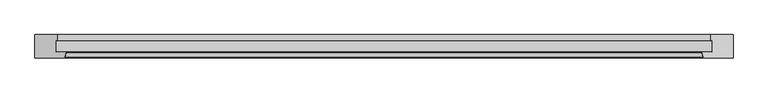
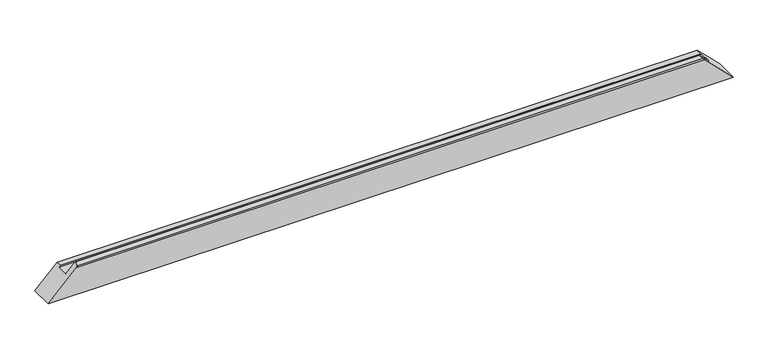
"""IFC4 building model written with IfcOpenShell, lengths in millimetres: proxy geometry, Weiku - Montante - Caixilho 02.2.01.005 : Weiku - Montante - Caixilho 02.2.01.005."""

import ifcopenshell
import ifcopenshell.guid

model = None  # the IFC model being written
_history = None  # IfcOwnerHistory: only IFC2X3 demands one
_inside = {}  # id of a spatial element -> (the spatial element, [elements in it])
_under = {}  # id of a project, library or spatial element -> (it, [spatial elements below it])
_declared = {}  # id of a project -> (the project, [libraries it declares])
_typed = {}  # id of a type object -> (the type object, [elements of that type])
_made_of = {}  # id of a material, layer set ... -> (it, [elements and type objects made of it])


def new_model(schema):
    """Start an empty IFC model of exactly this schema.

    Asked for "IFC4X3", IfcOpenShell would pick the latest addendum, in which some entities
    have other attributes; the version numbers below select the first issue.
    IFC2X3 requires an IfcOwnerHistory on every rooted entity: one is made here for all.
    """
    global model, _history
    if schema == "IFC4X3":
        model = ifcopenshell.file(schema_version=(4, 3, 0, 0))
    else:
        model = ifcopenshell.file(schema=schema)
    _inside.clear()
    _under.clear()
    _declared.clear()
    _typed.clear()
    _made_of.clear()
    _history = None
    if model.schema == "IFC2X3":
        org = make("IfcOrganization", Name="unknown")
        user = make(
            "IfcPersonAndOrganization",
            ThePerson=make("IfcPerson", FamilyName="unknown"),
            TheOrganization=org,
        )
        app = make(
            "IfcApplication",
            ApplicationDeveloper=org,
            Version="unknown",
            ApplicationFullName="unknown",
            ApplicationIdentifier="unknown",
        )
        _history = make(
            "IfcOwnerHistory",
            OwningUser=user,
            OwningApplication=app,
            ChangeAction="ADDED",
            CreationDate=0,
        )
    return model


def make(cls, **values):
    """One entity of the class cls with the attributes given. An attribute that is None is left unset."""
    return model.create_entity(
        cls, **{name: value for name, value in values.items() if value is not None}
    )


def rooted(cls, **values):
    """An entity with a GlobalId (a new one), such as an element, a storey or a relation."""
    return make(cls, GlobalId=ifcopenshell.guid.new(), OwnerHistory=_history, **values)


def si_unit(unit_type, name, prefix=None):
    """IfcSIUnit, for example si_unit("LENGTHUNIT", "METRE", prefix="MILLI")."""
    return make("IfcSIUnit", UnitType=unit_type, Prefix=prefix, Name=name)


def assignment(units):
    """IfcUnitAssignment: the units of a project."""
    return None if units is None else make("IfcUnitAssignment", Units=units)


def point(xyz):
    """IfcCartesianPoint."""
    return None if xyz is None else make("IfcCartesianPoint", Coordinates=xyz)


def direction(xyz):
    """IfcDirection."""
    return None if xyz is None else make("IfcDirection", DirectionRatios=xyz)


def frame(location, z_axis=None, x_axis=None):
    """IfcAxis2Placement3D, a coordinate frame: its origin and axes. An axis left out is left unset."""
    return make(
        "IfcAxis2Placement3D",
        Location=point(location),
        Axis=direction(z_axis),
        RefDirection=direction(x_axis),
    )


def origin():
    """The frame at (0, 0, 0) with its axes left unset."""
    return frame((0.0, 0.0, 0.0))


def place(relative_to, where):
    """IfcLocalPlacement: puts the frame where relative to a parent placement (None: the world)."""
    return make(
        "IfcLocalPlacement", PlacementRelTo=relative_to, RelativePlacement=where
    )


def context(
    kind, dimensions, precision=None, world=None, true_north=None, identifier=None
):
    """IfcGeometricRepresentationContext, for example the 3D "Model" context."""
    return make(
        "IfcGeometricRepresentationContext",
        ContextIdentifier=identifier,
        ContextType=kind,
        CoordinateSpaceDimension=dimensions,
        Precision=precision,
        WorldCoordinateSystem=world,
        TrueNorth=true_north,
    )


def project(units=None, contexts=None):
    """IfcProject with its units and contexts."""
    return rooted(
        "IfcProject",
        Name="project",
        RepresentationContexts=contexts,
        UnitsInContext=assignment(units),
    )


def spatial(cls, under=None, at=None, **own):
    """A site, building, storey or space (cls), placed at a placement, below another one or the project."""
    s = rooted(cls, ObjectPlacement=at, **own)
    if under is not None:
        _under.setdefault(under.id(), (under, []))[1].append(s)
    return s


def ellipse_curve(where, semi_axis1, semi_axis2):
    """IfcEllipse in the frame where."""
    return make(
        "IfcEllipse", Position=where, SemiAxis1=semi_axis1, SemiAxis2=semi_axis2
    )


def shape(context_of_items, identifier, shape_type, items):
    """IfcShapeRepresentation: the items that make up one representation, for example the "Body"."""
    return make(
        "IfcShapeRepresentation",
        ContextOfItems=context_of_items,
        RepresentationIdentifier=identifier,
        RepresentationType=shape_type,
        Items=items,
    )


def source(mapping_origin, context_of_items, identifier, shape_type, items):
    """IfcRepresentationMap: a shape defined once, which mapped items show again and again."""
    return make(
        "IfcRepresentationMap",
        MappingOrigin=mapping_origin,
        MappedRepresentation=shape(context_of_items, identifier, shape_type, items),
    )


def transform(
    local_origin,
    x_axis=None,
    y_axis=None,
    z_axis=None,
    scale=None,
    scale2=None,
    scale3=None,
    uniform=True,
):
    """IfcCartesianTransformationOperator3D, or its non-uniform kind. x_axis, y_axis, z_axis: its Axis1, 2, 3."""
    if uniform:
        return make(
            "IfcCartesianTransformationOperator3D",
            Axis1=direction(x_axis),
            Axis2=direction(y_axis),
            LocalOrigin=point(local_origin),
            Scale=scale,
            Axis3=direction(z_axis),
        )
    return make(
        "IfcCartesianTransformationOperator3DnonUniform",
        Axis1=direction(x_axis),
        Axis2=direction(y_axis),
        LocalOrigin=point(local_origin),
        Scale=scale,
        Axis3=direction(z_axis),
        Scale2=scale2,
        Scale3=scale3,
    )


def mapped(mapping_source, mapping_target):
    """IfcMappedItem: shows the shape of a source again, moved by a transform."""
    return make(
        "IfcMappedItem", MappingSource=mapping_source, MappingTarget=mapping_target
    )


def made_of(thing, what):
    """Note that an element or type object is made of a material, layer set ...; save() writes the relation."""
    if what is not None:
        _made_of.setdefault(what.id(), (what, []))[1].append(thing)
    return thing


def element(
    cls,
    number,
    at=None,
    inside=None,
    cuts=None,
    type_object=None,
    material=None,
    context=None,
    identifier="Body",
    shape_type=None,
    held_by="IfcProductDefinitionShape",
    body=None,
    shapes=None,
    **own,
):
    """One element of the class cls, such as IfcWall. Its Tag is "e" and its number.

    at: its placement. inside: the storey or other place that contains it. cuts: it is an
    opening in that element (IfcRelVoidsElement). A single representation is given by context,
    identifier, shape_type and body (its items); several are given by shapes. held_by: the class
    of the entity that holds the representations. save() writes the other relations.
    """
    e = rooted(cls, Tag="e%d" % number, ObjectPlacement=at, **own)
    if body is not None:
        shapes = [shape(context, identifier, shape_type, body)]
    if shapes is not None:
        e.Representation = make(held_by, Representations=shapes)
    if inside is not None:
        _inside.setdefault(inside.id(), (inside, []))[1].append(e)
    if cuts is not None:
        rooted(
            "IfcRelVoidsElement", RelatingBuildingElement=cuts, RelatedOpeningElement=e
        )
    if type_object is not None:
        _typed.setdefault(type_object.id(), (type_object, []))[1].append(e)
    return made_of(e, material)


def aggregate(whole, parts):
    """IfcRelAggregates: a whole, such as a stair, and the parts it consists of."""
    return rooted("IfcRelAggregates", RelatingObject=whole, RelatedObjects=parts)


def save(model, path):
    """Write the relations noted so far, then the file.

    IfcRelAggregates (storeys below a building ...), IfcRelContainedInSpatialStructure (elements
    in a storey), IfcRelDefinesByType, IfcRelAssociatesMaterial and IfcRelDeclares: one each for
    every whole, place, type object, material and project.
    """
    for whole, parts in _under.values():
        aggregate(whole, parts)
    for where, things in _inside.values():
        rooted(
            "IfcRelContainedInSpatialStructure",
            RelatedElements=things,
            RelatingStructure=where,
        )
    for kind, things in _typed.values():
        rooted("IfcRelDefinesByType", RelatedObjects=things, RelatingType=kind)
    for what, things in _made_of.values():
        rooted("IfcRelAssociatesMaterial", RelatedObjects=things, RelatingMaterial=what)
    for by, libraries in _declared.values():
        rooted("IfcRelDeclares", RelatingContext=by, RelatedDefinitions=libraries)
    model.write(path)


def plane_surface(at):
    """IfcPlane: the flat surface through the origin of the frame at, square to its z axis."""
    return make("IfcPlane", Position=at)


def cylinder_surface(at, radius):
    """IfcCylindricalSurface: all points at the distance radius from the z axis of the frame at."""
    return make("IfcCylindricalSurface", Position=at, Radius=radius)


def advanced_brep(points, edges, surfaces, faces):
    """IfcAdvancedBrep: a solid bounded by faces that lie on surfaces and meet in shared edges.

    An edge is (start, end): straight between two places in points (the first is 0);
    or (start, end, curve); or (start, end, curve, False) where it runs against its curve.
    A face is (place in surfaces, loops), or (place, loops, False) where it looks against
    its surface's normal. A loop lists edges by number (the first is 1), with a minus sign
    where the edge is run from its end to its start. The first loop is the outer one.
    """
    corners = [point(p) for p in points]
    vertices = [make("IfcVertexPoint", VertexGeometry=c) for c in corners]
    made = []
    for start, end, *more in edges:
        made.append(
            make(
                "IfcEdgeCurve",
                EdgeStart=vertices[start],
                EdgeEnd=vertices[end],
                EdgeGeometry=more[0] if more else make("IfcPolyline", Points=[corners[start], corners[end]]),
                SameSense=more[1] if len(more) > 1 else True,
            )
        )
    hull = []
    for where, loops, *sense in faces:
        bounds = []
        for j, loop in enumerate(loops):
            ring = [make("IfcOrientedEdge", EdgeElement=made[abs(k) - 1], Orientation=k > 0) for k in loop]
            bounds.append(
                make(
                    "IfcFaceOuterBound" if j == 0 else "IfcFaceBound",
                    Bound=make("IfcEdgeLoop", EdgeList=ring),
                    Orientation=True,
                )
            )
        hull.append(make("IfcAdvancedFace", Bounds=bounds, FaceSurface=surfaces[where], SameSense=sense[0] if sense else True))
    return make("IfcAdvancedBrep", Outer=make("IfcClosedShell", CfsFaces=hull))


def generic_models_fbaf8894(model_context):
    return source(origin(), model_context, "Body", "AdvancedBrep", [
        advanced_brep(
        [(-701.0, 12.5, 46.0), (-680.8909676, 12.5, 66.1090324), (680.8909676, 12.5, 66.1090324), (701.0, 12.5, 46.0), (-701.0, 37.8314286, 46.0), (701.0, 37.8314286, 46.0), (-698.0, 37.027581, 49.0), (698.0, 37.027581, 49.0), (-698.0, 50.0, 49.0), (698.0, 50.0, 49.0), (747.0, 50.0, 0.0), (-747.0, 50.0, 0.0), (747.0, 0.0, 0.0), (-747.0, 0.0, 0.0), (685.4997332, 0.0, 61.5002668), (-685.4997332, 0.0, 61.5002668), (-680.118227, 11.4929448, 66.881773), (-682.6019557, 2.2235429, 64.3980443), (682.6019557, 2.2235429, 64.3980443), (680.118227, 11.4929448, 66.881773)],
        [
            (0, 1),
            (1, 2),
            (2, 3),
            (3, 0),
            (4, 0),
            (3, 5),
            (5, 4),
            (6, 4),
            (5, 7),
            (7, 6),
            (8, 6),
            (7, 9),
            (9, 8),
            (10, 11),
            (11, 8),
            (9, 10),
            (10, 12),
            (12, 13),
            (13, 11),
            (12, 14),
            (14, 15),
            (15, 13),
            (16, 17),
            (17, 18),
            (18, 19),
            (19, 16),
            (15, 17, ellipse_curve(frame((-685.4997332, 3.0, 61.5002668), z_axis=(-0.7071067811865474, 0.0, 0.7071067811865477), x_axis=(-0.7071067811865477, 0.0, -0.7071067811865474)), 4.2426407, 3.0)),
            (16, 1, ellipse_curve(frame((-680.8909676, 11.7, 66.1090324), z_axis=(-0.7071067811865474, 0.0, 0.7071067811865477), x_axis=(-0.7071067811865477, 0.0, -0.7071067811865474)), 1.1313708, 0.8)),
            (2, 19, ellipse_curve(frame((680.8909676, 11.7, 66.1090324), z_axis=(0.7071067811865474, 0.0, 0.7071067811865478), x_axis=(-0.7071067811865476, 0.0, 0.7071067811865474)), 1.1313708, 0.8)),
            (18, 14, ellipse_curve(frame((685.4997332, 3.0, 61.5002668), z_axis=(0.7071067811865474, 0.0, 0.7071067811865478), x_axis=(-0.7071067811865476, 0.0, 0.7071067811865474)), 4.2426407, 3.0)),
        ],
        [
            plane_surface(frame((-747.0, 12.5, 66.1090324), z_axis=(0.0, 1.0, 0.0), x_axis=(1.0, 0.0, 0.0))),
            plane_surface(frame((-747.0, 12.5, 46.0), z_axis=(0.0, 0.0, 1.0), x_axis=(1.0, 0.0, 0.0))),
            plane_surface(frame((-747.0, 37.8314286, 46.0), z_axis=(0.0, -0.9659258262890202, -0.2588190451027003), x_axis=(1.0, 0.0, 0.0))),
            plane_surface(frame((-747.0, 37.027581, 49.0), z_axis=(0.0, 0.0, 1.0), x_axis=(1.0, 0.0, 0.0))),
            plane_surface(frame((-747.0, 50.0, 49.0), z_axis=(0.0, 1.0, 0.0), x_axis=(1.0, 0.0, 0.0))),
            plane_surface(frame((-747.0, 50.0, 0.0), z_axis=(0.0, 0.0, -1.0), x_axis=(1.0, 0.0, 0.0))),
            plane_surface(frame((-747.0, 0.0, 0.0), z_axis=(0.0, -1.0, 0.0), x_axis=(1.0, 0.0, 0.0))),
            plane_surface(frame((-747.0, 2.2235429, 64.3980443), z_axis=(0.0, -0.2588190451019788, 0.9659258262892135), x_axis=(1.0, 0.0, 0.0))),
            plane_surface(frame((-817.0, -15.0, -70.0), z_axis=(-0.7071067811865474, 0.0, 0.7071067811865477), x_axis=(0.0, 1.0, 0.0))),
            plane_surface(frame((677.0, -15.0, 70.0), z_axis=(0.7071067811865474, 0.0, 0.7071067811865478), x_axis=(0.0, 1.0, 0.0))),
            cylinder_surface(frame((-747.0, 11.7, 66.1090324), z_axis=(-1.0, 0.0, 0.0), x_axis=(0.0, 1.0, 0.0)), 0.8),
            cylinder_surface(frame((-747.0, 3.0, 61.5002668), z_axis=(-1.0, 0.0, 0.0), x_axis=(0.0, 1.0, 0.0)), 3.0),
        ],
        [
            (0, [[1, 2, 3, 4]]),
            (1, [[5, -4, 6, 7]]),
            (2, [[8, -7, 9, 10]]),
            (3, [[11, -10, 12, 13]]),
            (4, [[14, 15, -13, 16]]),
            (5, [[-14, 17, 18, 19]]),
            (6, [[-18, 20, 21, 22]]),
            (7, [[23, 24, 25, 26]]),
            (8, [[-1, -5, -8, -11, -15, -19, -22, 27, -23, 28]]),
            (9, [[-3, 29, -25, 30, -20, -17, -16, -12, -9, -6]]),
            (10, [[-28, -26, -29, -2]]),
            (11, [[-27, -21, -30, -24]]),
        ],
    ),
    ])


if __name__ == "__main__":
    model = new_model("IFC4")
    model_context = context("Model", 3, world=origin())
    ifc_project = project(units=[si_unit("LENGTHUNIT", "METRE", prefix="MILLI")], contexts=[model_context])
    site = spatial("IfcSite", under=ifc_project)
    building = spatial("IfcBuilding", under=site)
    placement = place(None, origin())
    generic_models_shape = generic_models_fbaf8894(model_context)
    element("IfcBuildingElementProxy", 1, Name="Weiku - Montante - Caixilho 02.2.01.005 : Weiku - Montante - Caixilho 02.2.01.005", ObjectType="Weiku - Montante - Caixilho 02.2.01.005 : Weiku - Montante - Caixilho 02.2.01.005", at=placement, inside=building, context=model_context, shape_type="MappedRepresentation", body=[
        mapped(generic_models_shape, transform((0.0, 0.0, 0.0), x_axis=(1.0, 0.0, 0.0), y_axis=(0.0, 1.0, 0.0), z_axis=(0.0, 0.0, 1.0))),
    ])
    save(model, "model.ifc")
